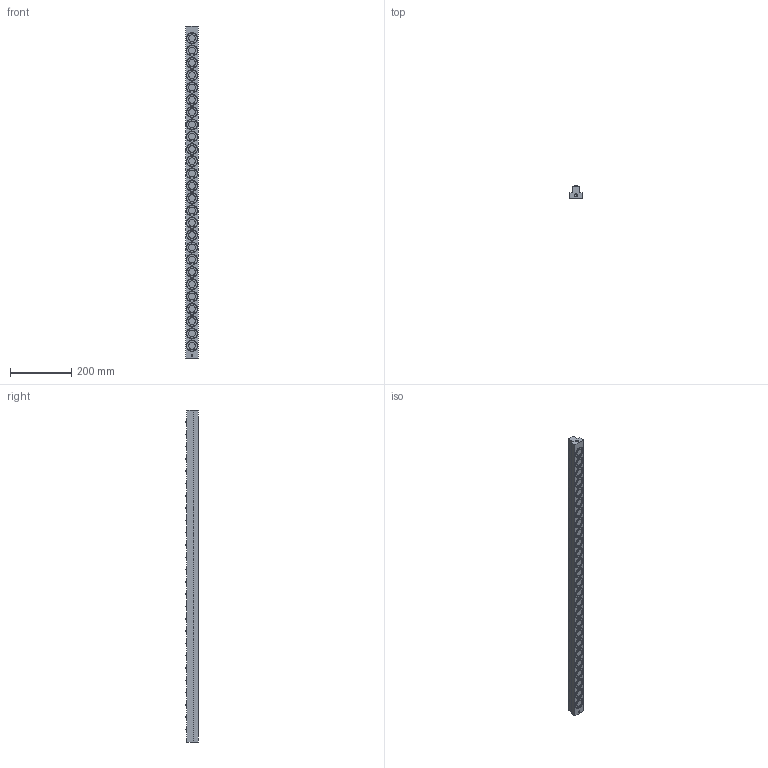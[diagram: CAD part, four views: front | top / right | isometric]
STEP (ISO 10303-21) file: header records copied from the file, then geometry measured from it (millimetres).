
FILE_DESCRIPTION (( 'STEP AP203' ), '1' );
FILE_NAME ('PVL30T-26.STEP', '2016-02-18T04:54:01', ( '' ), ( '' ), 'SwSTEP 2.0', 'SolidWorks 2013', '' );
FILE_SCHEMA (( 'CONFIG_CONTROL_DESIGN' ));
Length unit declared in the file: millimetre
Products named in the file (1): PVL30T-26
Bounding box: 40 x 42 x 1080 mm (x, y, z)
Volume: 1222774.2 mm3; surface area: 202992 mm2
Topology: 1 solids, 1 shells, 828 faces, 2106 edges, 1411 vertices
Faces by surface type: cylinder 526, plane 246, sphere 52, cone 4
Entity records: 25845 total; most frequent: DIRECTION 5078, CARTESIAN_POINT 4344, ORIENTED_EDGE 4208, AXIS2_PLACEMENT_3D 2145, EDGE_CURVE 2104, VERTEX_POINT 1411, CIRCLE 1316, EDGE_LOOP 963
